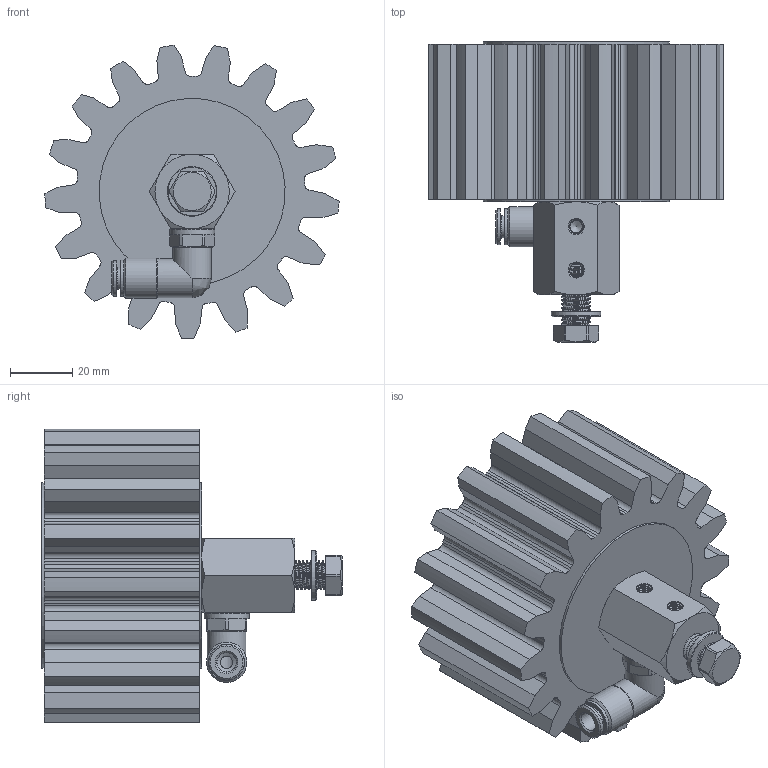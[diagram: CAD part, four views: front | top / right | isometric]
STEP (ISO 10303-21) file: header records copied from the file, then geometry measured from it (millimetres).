
FILE_DESCRIPTION (( 'STEP AP214' ), '1' );
FILE_NAME ('012_13_05_50_17BZ.STEP', '2026-04-08T10:35:50', ( '' ), ( '' ), 'SwSTEP 2.0', 'SolidWorks 2022', '' );
FILE_SCHEMA (( 'AUTOMOTIVE_DESIGN' ));
Length unit declared in the file: millimetre
Products named in the file (13): Schmierzahnrad_05_50_17G; 012_13b_02_winklige_Achse_M10_1; 012_06_Senkschraube; RH202242; Schraube_M8_20; 12012_06_01_Scheibe-CRS-VA_60.SLDASM; U_Scheibe_8,4; OR 7.2X1.9_1; DR6-C_HDX_25.07.16_1; Scheibe_hinten_winklige Achse_groß; H202242_HDS022_6_M10X1_08.05.17(1); RIVOLUZIONE_0_2; 012_13_05_50_17BZ
Assembly tree (12 placements, depth 3):
  012_13_05_50_17BZ
    012_13b_02_winklige_Achse_M10_1
    Schraube_M8_20
    U_Scheibe_8,4
    H202242_HDS022_6_M10X1_08.05.17(1)
      OR 7.2X1.9_1
      RH202242
      DR6-C_HDX_25.07.16_1
      RIVOLUZIONE_0_2
    12012_06_01_Scheibe-CRS-VA_60.SLDASM
    Scheibe_hinten_winklige Achse_groß
    012_06_Senkschraube
    Schmierzahnrad_05_50_17G
Bounding box: 94.89 x 96.9 x 94.64 mm (x, y, z)
Volume: 305691.1 mm3; surface area: 60620.5 mm2
Topology: 11 solids, 11 shells, 729 faces, 1985 edges, 1315 vertices
Faces by surface type: plane 379, bspline 184, cylinder 106, cone 57, torus 3
Full cylindrical faces by diameter (mm): 4 x3, 5.5 x1, 6 x1, 6.2 x1, 6.3 x1, 6.5 x1, 7.2 x1, 8.4 x1, 8.5 x1, 9 x10, 9.9 x1, 10 x2, 10.1 x2, 10.3 x1, 11.5 x1, 11.7 x1, 12.5 x2, 13 x1, 14.5 x1, 16 x1, 60 x2
Entity records: 48200 total; most frequent: CARTESIAN_POINT 30642, ORIENTED_EDGE 3668, DIRECTION 2683, EDGE_CURVE 1834, VERTEX_POINT 1249, VECTOR 1079, LINE 1079, EDGE_LOOP 851
